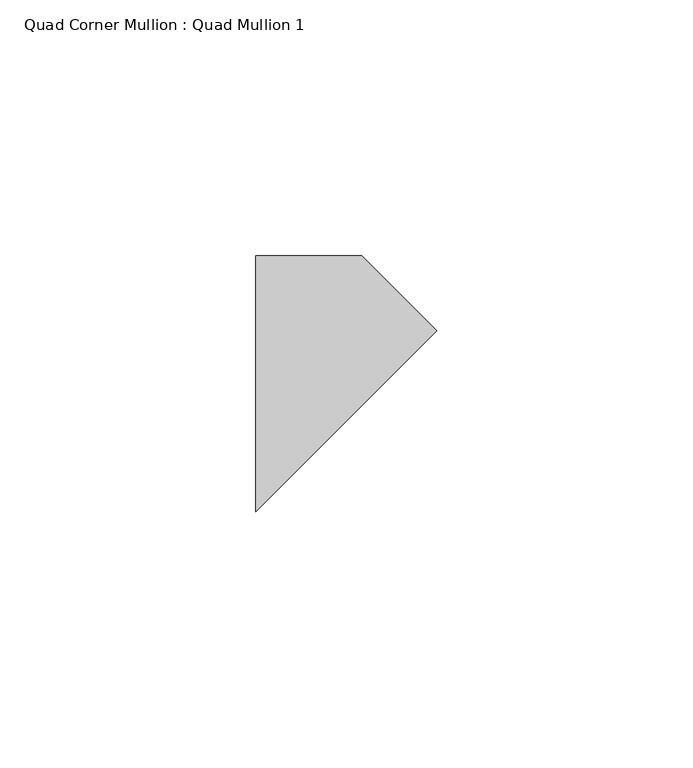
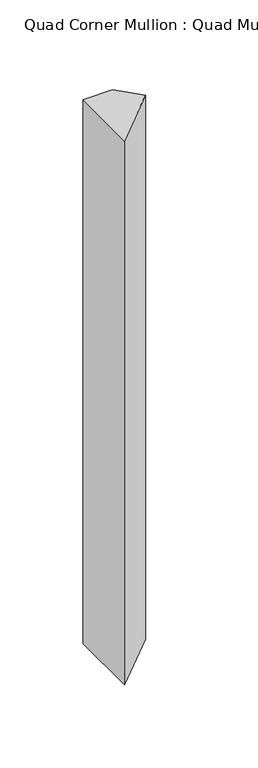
"""IFC4 building model written with IfcOpenShell, lengths in millimetres: member geometry, Quad Corner Mullion : Quad Mullion 1."""

from ifc_helpers import new_model, si_unit, frame, origin, place, context, project, spatial, polyline, outline, extrude, source, transform, mapped, element, save


def quad_corner_mullion_quad_mullion_1_4b5c7749(model_context):
    return source(origin(), model_context, "Body", "SweptSolid", [
        extrude(outline(polyline([(25.0, 10.3553391), (-10.3553391, -25.0), (-10.3553391, 25.0), (10.3553391, 25.0), (25.0, 10.3553391)])), frame((0.0, 0.0, -400.0), z_axis=(0.0, 0.0, 1.0), x_axis=(1.0, 0.0, 0.0)), (0.0, 0.0, 1.0), 400.0),
    ])


if __name__ == "__main__":
    model = new_model("IFC4")
    model_context = context("Model", 3, world=origin())
    ifc_project = project(units=[si_unit("LENGTHUNIT", "METRE", prefix="MILLI")], contexts=[model_context])
    site = spatial("IfcSite", under=ifc_project)
    building = spatial("IfcBuilding", under=site)
    placement = place(None, origin())
    quad_corner_mullion_quad_mullion_1_shape = quad_corner_mullion_quad_mullion_1_4b5c7749(model_context)
    element("IfcMember", 1, ObjectType="Quad Corner Mullion : Quad Mullion 1", at=placement, inside=building, context=model_context, shape_type="MappedRepresentation", body=[
        mapped(quad_corner_mullion_quad_mullion_1_shape, transform((0.0, 0.0, 0.0), x_axis=(1.0, 0.0, 0.0), y_axis=(0.0, 1.0, 0.0), z_axis=(0.0, 0.0, 1.0))),
    ])
    save(model, "model.ifc")
